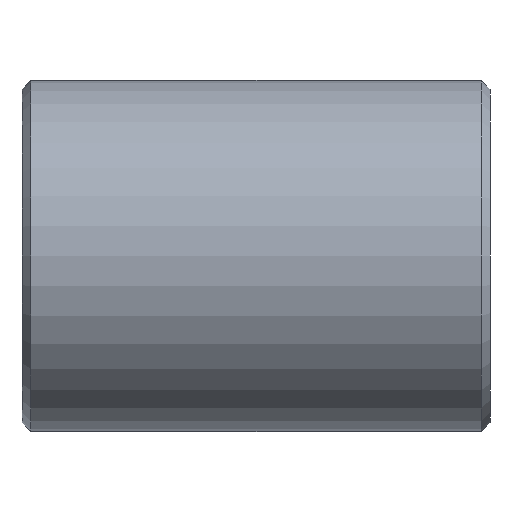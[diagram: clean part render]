
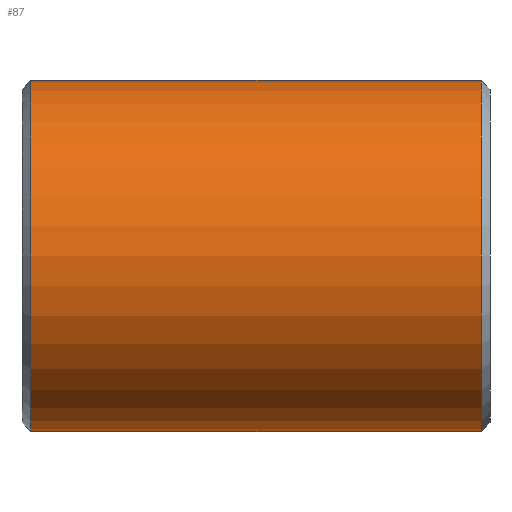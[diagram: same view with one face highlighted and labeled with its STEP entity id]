
A CAD part, left-side view. The second image highlights one B-rep face of the part: STEP entity #87.
In plain terms, the highlighted cylindrical face has radius 6 mm (diameter 12 mm), a partial arc.
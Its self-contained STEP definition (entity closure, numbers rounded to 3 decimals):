
#3 = EDGE_LOOP ( 'NONE', ( #396, #283, #358, #67 ) ) ;
#28 = LINE ( 'NONE', #126, #116 ) ;
#33 = VERTEX_POINT ( 'NONE', #367 ) ;
#42 = DIRECTION ( 'NONE',  ( 0., 0., -1. ) ) ;
#62 = EDGE_CURVE ( 'NONE', #33, #311, #63, .T. ) ;
#63 = CIRCLE ( 'NONE', #356, 6. ) ;
#67 = ORIENTED_EDGE ( 'NONE', *, *, #62, .T. ) ;
#68 = DIRECTION ( 'NONE',  ( 0., 1., 0. ) ) ;
#80 = CARTESIAN_POINT ( 'NONE',  ( 0., 8., 0. ) ) ;
#82 = AXIS2_PLACEMENT_3D ( 'NONE', #80, #207, #42 ) ;
#87 = ADVANCED_FACE ( 'NONE', ( #228 ), #310, .T. ) ;
#92 = DIRECTION ( 'NONE',  ( 0., -1., 0. ) ) ;
#97 = DIRECTION ( 'NONE',  ( 0., -1., 0. ) ) ;
#116 = VECTOR ( 'NONE', #92, 1000. ) ;
#121 = CARTESIAN_POINT ( 'NONE',  ( 0., 7.7, -6. ) ) ;
#126 = CARTESIAN_POINT ( 'NONE',  ( 0., 8., 6. ) ) ;
#148 = VECTOR ( 'NONE', #312, 1000. ) ;
#185 = CARTESIAN_POINT ( 'NONE',  ( 0., 7.7, 6. ) ) ;
#207 = DIRECTION ( 'NONE',  ( 0., -1., 0. ) ) ;
#228 = FACE_OUTER_BOUND ( 'NONE', #3, .T. ) ;
#231 = AXIS2_PLACEMENT_3D ( 'NONE', #260, #97, #331 ) ;
#235 = EDGE_CURVE ( 'NONE', #252, #33, #395, .T. ) ;
#247 = CIRCLE ( 'NONE', #231, 6. ) ;
#252 = VERTEX_POINT ( 'NONE', #121 ) ;
#260 = CARTESIAN_POINT ( 'NONE',  ( 0., 7.7, 0. ) ) ;
#269 = DIRECTION ( 'NONE',  ( 0., 0., 1. ) ) ;
#283 = ORIENTED_EDGE ( 'NONE', *, *, #397, .T. ) ;
#299 = CARTESIAN_POINT ( 'NONE',  ( 0., -7.7, 6. ) ) ;
#303 = CARTESIAN_POINT ( 'NONE',  ( 0., -7.7, 0. ) ) ;
#306 = EDGE_CURVE ( 'NONE', #347, #311, #28, .T. ) ;
#310 = CYLINDRICAL_SURFACE ( 'NONE', #82, 6. ) ;
#311 = VERTEX_POINT ( 'NONE', #299 ) ;
#312 = DIRECTION ( 'NONE',  ( 0., -1., 0. ) ) ;
#331 = DIRECTION ( 'NONE',  ( 0., 0., 1. ) ) ;
#347 = VERTEX_POINT ( 'NONE', #185 ) ;
#356 = AXIS2_PLACEMENT_3D ( 'NONE', #303, #68, #269 ) ;
#358 = ORIENTED_EDGE ( 'NONE', *, *, #235, .T. ) ;
#367 = CARTESIAN_POINT ( 'NONE',  ( 0., -7.7, -6. ) ) ;
#395 = LINE ( 'NONE', #406, #148 ) ;
#396 = ORIENTED_EDGE ( 'NONE', *, *, #306, .F. ) ;
#397 = EDGE_CURVE ( 'NONE', #347, #252, #247, .T. ) ;
#406 = CARTESIAN_POINT ( 'NONE',  ( 0., 8., -6. ) ) ;
